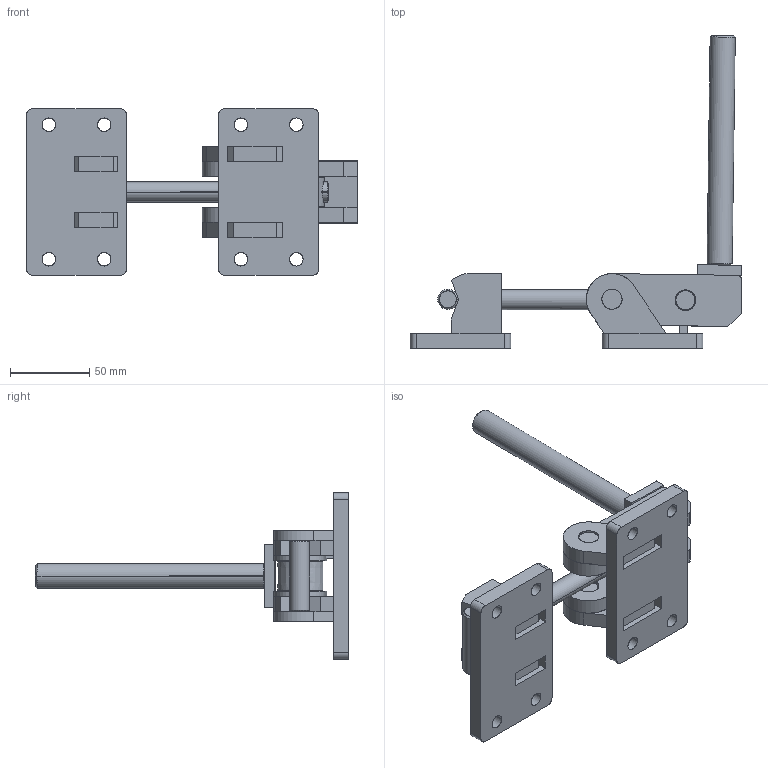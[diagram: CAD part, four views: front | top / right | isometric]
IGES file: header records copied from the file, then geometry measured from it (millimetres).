
Start section: SolidWorks IGES file using analytic representation for surfaces
Global section: file name: C:\Projetos\Grampos\KF-330\KF-330.IGS; native system: SolidWorks 2013; preprocessor: SolidWorks 2013; author: Ricardo; date: 140822.104801; units: millimetre
Bounding box: 209.37 x 197.77 x 105 mm (x, y, z)
Surface area: 94373.9 mm2 (no closed solid volume)
Topology: 0 solids, 0 shells, 200 faces, 2873 edges, 2873 vertices
Faces by surface type: bspline 112, revolution 88
